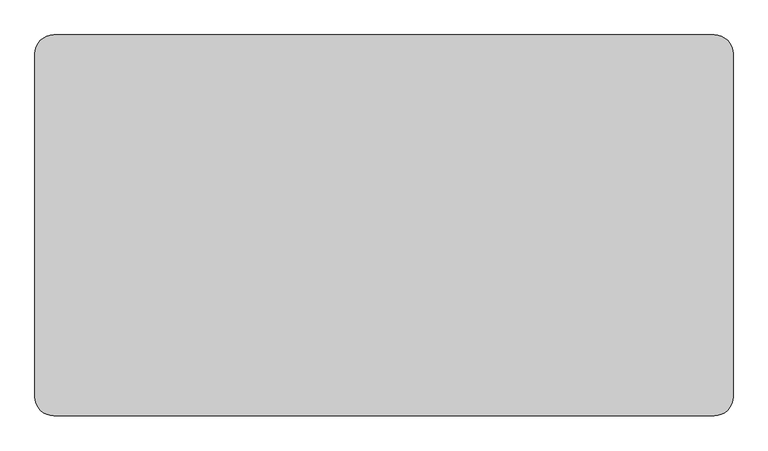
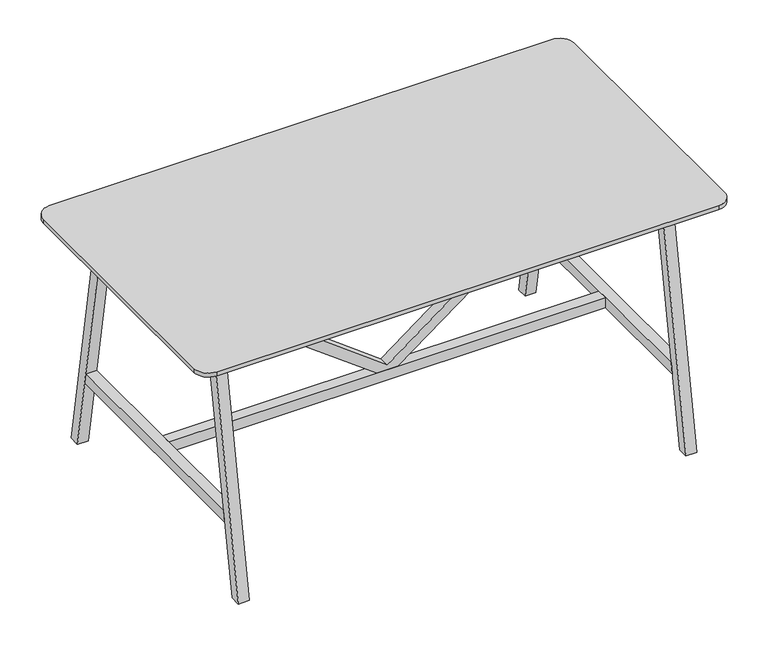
"""IFC4 building model written with IfcOpenShell, lengths in millimetres: furniture geometry, BDG_BossDesign_Tbls_AgentTables4Legs : AGE-HT-2200-1200-3D."""

from ifc_helpers import new_model, si_unit, point, frame, frame_2d, origin, place, context, project, spatial, polyline, circle_curve, trimmed, segment, composite_curve, outline, extrude, source, transform, mapped, element, save


def furniture_3e2e6405(model_context):
    return source(origin(), model_context, "Body", "SweptSolid", [
        extrude(outline(polyline([(1029.0, -905.0), (985.6193848, -905.0), (345.0, -44.0212994), (345.0, 44.0212994), (985.6193848, 905.0), (1029.0, 905.0), (1029.0, 885.1023991), (364.9999695, 0.0), (1029.0, -885.1023991), (1029.0, -905.0)])), frame((0.0, -22.5000305, 0.0), z_axis=(0.0, 1.0, 0.0), x_axis=(0.0, 0.0, 1.0)), (0.0, 0.0, 1.0), 45.000061),
        extrude(outline(polyline([(-494.7139143, 345.0), (494.7139143, 345.0), (502.5773161, 300.0), (-502.5773161, 300.0), (-494.7139143, 345.0)])), frame((905.0, 0.0, 0.0), z_axis=(1.0, 0.0, 0.0), x_axis=(0.0, 1.0, 0.0)), (0.0, 0.0, 1.0), 45.0),
        extrude(outline(polyline([(600.0, 0.0), (554.9999949, 0.0), (385.5, 970.0), (430.5000051, 970.0), (600.0, 0.0)])), frame((-950.0, 0.0, 0.0), z_axis=(1.0, 0.0, 0.0), x_axis=(0.0, 1.0, 0.0)), (0.0, 0.0, 1.0), 45.0),
        extrude(outline(polyline([(-600.0, 0.0), (-430.5000051, 970.0), (-385.5, 970.0), (-554.9999949, 0.0), (-600.0, 0.0)])), frame((-950.0, 0.0, 0.0), z_axis=(1.0, 0.0, 0.0), x_axis=(0.0, 1.0, 0.0)), (0.0, 0.0, 1.0), 45.0),
        extrude(outline(polyline([(-379.5, 1032.0), (379.5, 1032.0), (397.9691272, 960.0), (-397.9691272, 960.0), (-379.5, 1032.0)])), frame((488.0, 0.0, 0.0), z_axis=(1.0, 0.0, 0.0), x_axis=(0.0, 1.0, 0.0)), (0.0, 0.0, 1.0), 24.0),
        extrude(outline(polyline([(-494.7139143, 345.0), (494.7139143, 345.0), (502.5773161, 300.0), (-502.5773161, 300.0), (-494.7139143, 345.0)])), frame((-950.0, 0.0, 0.0), z_axis=(1.0, 0.0, 0.0), x_axis=(0.0, 1.0, 0.0)), (0.0, 0.0, 1.0), 45.0),
        extrude(outline(polyline([(-379.5, 1032.0), (379.5, 1032.0), (397.9691272, 960.0), (-397.9691272, 960.0), (-379.5, 1032.0)])), frame((-512.0, 0.0, 0.0), z_axis=(1.0, 0.0, 0.0), x_axis=(0.0, 1.0, 0.0)), (0.0, 0.0, 1.0), 24.0),
        extrude(outline(polyline([(-426.6006165, 944.973938), (-404.2770691, 1032.0), (-379.5, 1032.0), (-401.8235474, 944.973938), (-426.6006165, 944.973938)])), frame((-905.0, 0.0, 0.0), z_axis=(1.0, 0.0, 0.0), x_axis=(0.0, 1.0, 0.0)), (0.0, 0.0, 1.0), 1810.0),
        extrude(outline(polyline([(426.6006165, 944.973938), (401.8235474, 944.973938), (379.5, 1032.0), (404.2770691, 1032.0), (426.6006165, 944.973938)])), frame((-905.0, 0.0, 0.0), z_axis=(1.0, 0.0, 0.0), x_axis=(0.0, 1.0, 0.0)), (0.0, 0.0, 1.0), 1810.0),
        extrude(outline(polyline([(599.7999878, 0.0), (554.7999827, 0.0), (385.5, 970.0), (430.5000051, 970.0), (599.7999878, 0.0)])), frame((905.0, 0.0, 0.0), z_axis=(1.0, 0.0, 0.0), x_axis=(0.0, 1.0, 0.0)), (0.0, 0.0, 1.0), 45.0),
        extrude(outline(polyline([(-599.7999878, 0.0), (-430.5000051, 970.0), (-385.5, 970.0), (-554.7999827, 0.0), (-599.7999878, 0.0)])), frame((905.0, 0.0, 0.0), z_axis=(1.0, 0.0, 0.0), x_axis=(0.0, 1.0, 0.0)), (0.0, 0.0, 1.0), 45.0),
        extrude(outline(polyline([(905.0, 22.5000305), (905.0, -22.5000305), (-905.0, -22.5000305), (-905.0, 22.5000305), (905.0, 22.5000305)])), frame((0.0, 0.0, 300.0), z_axis=(0.0, 0.0, 1.0), x_axis=(1.0, 0.0, 0.0)), (0.0, 0.0, 1.0), 45.0),
        extrude(outline(composite_curve([segment(trimmed(circle_curve(frame_2d((1040.0, 540.0)), 60.0), [point((1040.0, 600.0))], [point((1100.0, 540.0))], False, "CARTESIAN"), True, "CONTINUOUS"), segment(polyline([(1100.0, 540.0), (1100.0, -540.0)]), True, "CONTINUOUS"), segment(trimmed(circle_curve(frame_2d((1040.0, -540.0)), 60.0), [point((1100.0, -540.0))], [point((1040.0, -600.0))], False, "CARTESIAN"), True, "CONTINUOUS"), segment(polyline([(1040.0, -600.0), (-1040.0, -600.0)]), True, "CONTINUOUS"), segment(trimmed(circle_curve(frame_2d((-1040.0, -540.0)), 60.0), [point((-1040.0, -600.0))], [point((-1100.0, -540.0))], False, "CARTESIAN"), True, "CONTINUOUS"), segment(polyline([(-1100.0, -540.0), (-1100.0, 540.0)]), True, "CONTINUOUS"), segment(trimmed(circle_curve(frame_2d((-1040.0, 540.0)), 60.0), [point((-1100.0, 540.0))], [point((-1040.0, 600.0))], False, "CARTESIAN"), True, "CONTINUOUS"), segment(polyline([(-1040.0, 600.0), (1040.0, 600.0)]), True, "CONTINUOUS")], self_intersect=False)), frame((0.0, 0.0, 1032.0), z_axis=(0.0, 0.0, 1.0), x_axis=(1.0, 0.0, 0.0)), (0.0, 0.0, 1.0), 18.0),
    ])


if __name__ == "__main__":
    model = new_model("IFC4")
    model_context = context("Model", 3, world=origin())
    ifc_project = project(units=[si_unit("LENGTHUNIT", "METRE", prefix="MILLI")], contexts=[model_context])
    site = spatial("IfcSite", under=ifc_project)
    building = spatial("IfcBuilding", under=site)
    placement = place(None, origin())
    furniture_shape = furniture_3e2e6405(model_context)
    element("IfcFurniture", 1, ObjectType="BDG_BossDesign_Tbls_AgentTables4Legs : AGE-HT-2200-1200-3D", at=placement, inside=building, context=model_context, shape_type="MappedRepresentation", body=[
        mapped(furniture_shape, transform((0.0, 0.0, 0.0), x_axis=(1.0, 0.0, 0.0), y_axis=(0.0, 1.0, 0.0), z_axis=(0.0, 0.0, 1.0))),
    ])
    save(model, "model.ifc")
